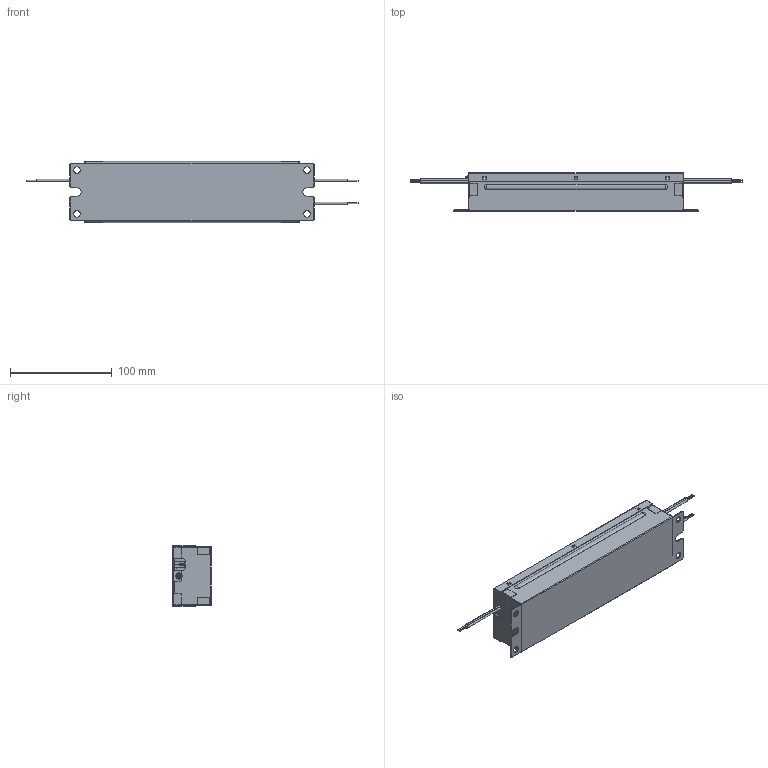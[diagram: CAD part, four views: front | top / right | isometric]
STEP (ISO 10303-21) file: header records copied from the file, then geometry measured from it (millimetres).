
FILE_DESCRIPTION((''),'2;1');
FILE_NAME('ASSY-B_CAN-150W_ASM_ASM','2016-08-26T',('TAYLOR.PH.CHAO'),(''),'PRO/ENGINEER BY PARAMETRIC TECHNOLOGY CORPORATION, 2009440','PRO/ENGINEER BY PARAMETRIC TECHNOLOGY CORPORATION, 2009440','');
FILE_SCHEMA(('CONFIG_CONTROL_DESIGN'));
Length unit declared in the file: millimetre
Products named in the file (15): BASE_23; COVER_16; STRAIN-RELIEF_3230013300_2; SCREW_PAN_STAR_WASHER_M3_5_3; MANIFOLD_SOLID_BREP_19375; MANIFOLD_SOLID_BREP_19543; INPUT-WIRE_1316_18AWG_1_ASM; MANIFOLD_SOLID_BREP_19740; MANIFOLD_SOLID_BREP_19908; OUTPUT-WIRE_1316_18AWG_2_ASM; MANIFOLD_SOLID_BREP_20104; MANIFOLD_SOLID_BREP_20272; DIMMING-WIRE_1316_18AWG_2_ASM; ASSY-B_CAN-150W_ASM_17_ASM; ASSY-B_CAN-150W_ASM_ASM
Assembly tree (16 placements, depth 4):
  ASSY-B_CAN-150W_ASM_ASM
    ASSY-B_CAN-150W_ASM_17_ASM
      BASE_23
      COVER_16
      STRAIN-RELIEF_3230013300_2  x3
      SCREW_PAN_STAR_WASHER_M3_5_3
      INPUT-WIRE_1316_18AWG_1_ASM
        MANIFOLD_SOLID_BREP_19375
        MANIFOLD_SOLID_BREP_19543
      OUTPUT-WIRE_1316_18AWG_2_ASM
        MANIFOLD_SOLID_BREP_19740
        MANIFOLD_SOLID_BREP_19908
      DIMMING-WIRE_1316_18AWG_2_ASM
        MANIFOLD_SOLID_BREP_20104
        MANIFOLD_SOLID_BREP_20272
Bounding box: 326.4 x 37.8 x 60 mm (x, y, z)
Volume: 33272.3 mm3; surface area: 109355.8 mm2
Topology: 12 solids, 12 shells, 721 faces, 1828 edges, 1128 vertices
Faces by surface type: plane 480, cylinder 181, bspline 44, sphere 8, cone 6, torus 2
Entity records: 20669 total; most frequent: CARTESIAN_POINT 5104, ORIENTED_EDGE 3200, DIRECTION 3078, EDGE_CURVE 1600, VECTOR 1200, LINE 1200, VERTEX_POINT 984, AXIS2_PLACEMENT_3D 939
